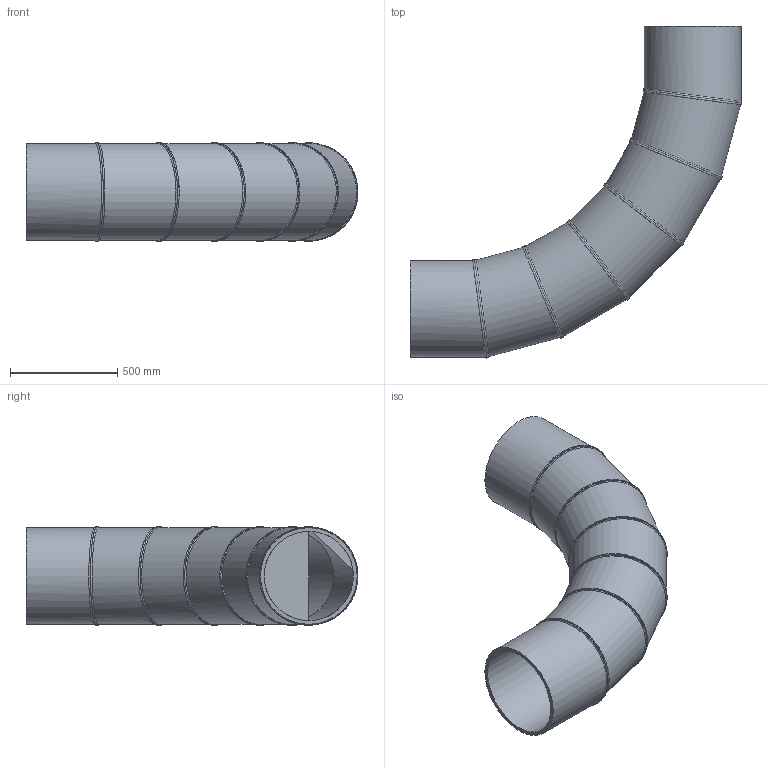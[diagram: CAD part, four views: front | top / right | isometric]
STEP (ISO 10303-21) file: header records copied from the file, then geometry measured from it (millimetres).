
FILE_DESCRIPTION(/* description */ ('Unknown'),/* implementation_level */ '2;1');
FILE_NAME(/* name */ 'Curva 90° a settore DE450 SDR26',/* time_stamp */ '2022-07-27T09:51:49+02:00',/* author */ ('Unknown'),/* organization */ ('Unknown'),/* preprocessor_version */ 'ST-DEVELOPER v18.102',/* originating_system */ 'Solid Edge',/* authorisation */ 'Unknown');
FILE_SCHEMA (('AUTOMOTIVE_DESIGN {1 0 10303 214 3 1 1}'));
Length unit declared in the file: millimetre
Products named in the file (3): Curva 90° a settore DE450 SDR26; Tubo x Gomito 90° DE450 SDR26 - 2; Tubo x Gomito 90° DE450 SDR26 - 1
Assembly tree (7 placements, depth 2):
  Curva 90° a settore DE450 SDR26
    Tubo x Gomito 90° DE450 SDR26 - 2  x5
    Tubo x Gomito 90° DE450 SDR26 - 1  x2
Bounding box: 1545.47 x 1545.47 x 457.99 mm (x, y, z)
Volume: 50851204 mm3; surface area: 6271641.6 mm2
Topology: 7 solids, 7 shells, 64 faces, 143 edges, 93 vertices
Faces by surface type: cylinder 38, plane 14, bspline 12
Full cylindrical faces by diameter (mm): 415.6 x7, 450 x7
Entity records: 2438 total; most frequent: CARTESIAN_POINT 2015, DIRECTION 78, ORIENTED_EDGE 52, AXIS2_PLACEMENT_3D 39, EDGE_LOOP 28, FACE_BOUND 28, EDGE_CURVE 26, VERTEX_POINT 20
